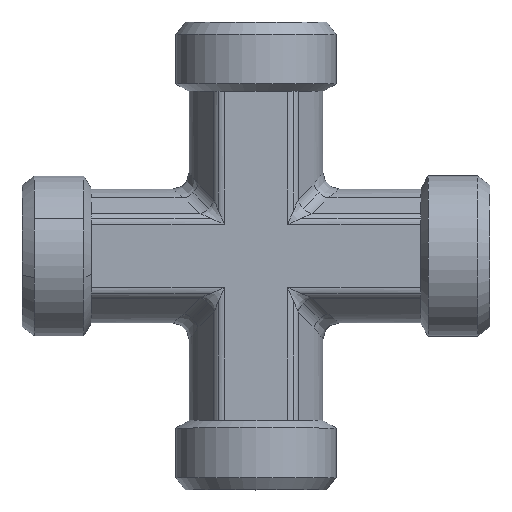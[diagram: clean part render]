
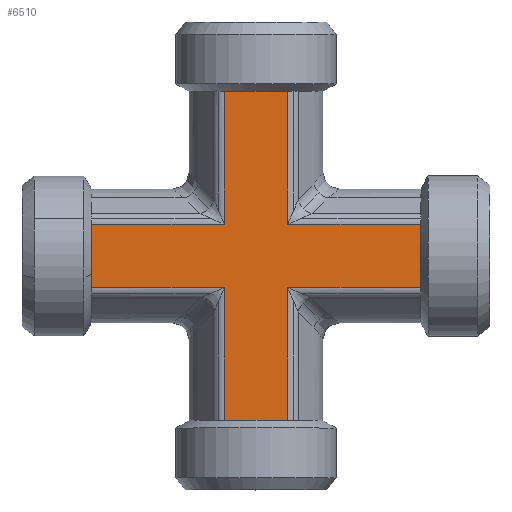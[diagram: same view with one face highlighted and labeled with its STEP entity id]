
A CAD part, top view. The second image highlights one B-rep face of the part: STEP entity #6510.
In plain terms, the highlighted planar face has unit normal (0, 0, 1) as drawn and (0, -1, 0) by its records, which use the part's own axes.
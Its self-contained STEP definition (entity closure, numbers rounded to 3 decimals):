
#361=CARTESIAN_POINT('',(-0.574,-8.3,3.926));
#362=VERTEX_POINT('',#361);
#370=CARTESIAN_POINT('',(15.9,-8.3,3.926));
#371=VERTEX_POINT('',#370);
#372=CARTESIAN_POINT('',(-0.574,-8.3,3.926));
#373=DIRECTION('',(1.0,0.0,0.0));
#374=VECTOR('',#373,16.474);
#375=LINE('',#372,#374);
#376=EDGE_CURVE('',#362,#371,#375,.T.);
#445=CARTESIAN_POINT('',(-0.574,-8.3,-3.926));
#446=VERTEX_POINT('',#445);
#454=CARTESIAN_POINT('',(-0.574,-8.3,-20.4));
#455=VERTEX_POINT('',#454);
#456=CARTESIAN_POINT('',(-0.574,-8.3,-3.926));
#457=DIRECTION('',(0.0,0.0,-1.0));
#458=VECTOR('',#457,16.474);
#459=LINE('',#456,#458);
#460=EDGE_CURVE('',#446,#455,#459,.T.);
#487=CARTESIAN_POINT('',(-8.426,-8.3,3.926));
#488=VERTEX_POINT('',#487);
#496=CARTESIAN_POINT('',(-8.426,-8.3,20.4));
#497=VERTEX_POINT('',#496);
#498=CARTESIAN_POINT('',(-8.426,-8.3,3.926));
#499=DIRECTION('',(0.0,0.0,1.0));
#500=VECTOR('',#499,16.474);
#501=LINE('',#498,#500);
#502=EDGE_CURVE('',#488,#497,#501,.T.);
#529=CARTESIAN_POINT('',(-24.9,-8.3,3.926));
#530=VERTEX_POINT('',#529);
#538=CARTESIAN_POINT('',(-24.9,-8.3,3.926));
#539=DIRECTION('',(1.0,0.0,0.0));
#540=VECTOR('',#539,16.474);
#541=LINE('',#538,#540);
#542=EDGE_CURVE('',#530,#488,#541,.T.);
#611=CARTESIAN_POINT('',(-8.426,-8.3,-3.926));
#612=VERTEX_POINT('',#611);
#620=CARTESIAN_POINT('',(-24.9,-8.3,-3.926));
#621=VERTEX_POINT('',#620);
#622=CARTESIAN_POINT('',(-8.426,-8.3,-3.926));
#623=DIRECTION('',(-1.0,0.0,0.0));
#624=VECTOR('',#623,16.474);
#625=LINE('',#622,#624);
#626=EDGE_CURVE('',#612,#621,#625,.T.);
#1520=CARTESIAN_POINT('',(-24.9,-8.3,0.));
#1521=VERTEX_POINT('',#1520);
#1821=CARTESIAN_POINT('',(-4.5,-8.3,20.4));
#1822=VERTEX_POINT('',#1821);
#2173=CARTESIAN_POINT('',(15.9,-8.3,0.));
#2174=VERTEX_POINT('',#2173);
#3138=CARTESIAN_POINT('',(-4.5,-8.3,-20.4));
#3139=VERTEX_POINT('',#3138);
#3262=CARTESIAN_POINT('',(-4.5,-8.3,-20.4));
#3263=DIRECTION('',(1.0,0.0,0.0));
#3264=VECTOR('',#3263,3.926);
#3265=LINE('',#3262,#3264);
#3266=EDGE_CURVE('',#3139,#455,#3265,.T.);
#3277=CARTESIAN_POINT('',(-8.426,-8.3,-20.4));
#3278=VERTEX_POINT('',#3277);
#3279=CARTESIAN_POINT('',(-8.426,-8.3,-20.4));
#3280=DIRECTION('',(1.0,0.0,0.0));
#3281=VECTOR('',#3280,3.926);
#3282=LINE('',#3279,#3281);
#3283=EDGE_CURVE('',#3278,#3139,#3282,.T.);
#3568=CARTESIAN_POINT('',(15.9,-8.3,-3.926));
#3569=VERTEX_POINT('',#3568);
#3570=CARTESIAN_POINT('',(15.9,-8.3,-3.926));
#3571=DIRECTION('',(0.0,0.0,1.0));
#3572=VECTOR('',#3571,3.926);
#3573=LINE('',#3570,#3572);
#3574=EDGE_CURVE('',#3569,#2174,#3573,.T.);
#3615=CARTESIAN_POINT('',(15.9,-8.3,0.));
#3616=DIRECTION('',(0.0,0.0,1.0));
#3617=VECTOR('',#3616,3.926);
#3618=LINE('',#3615,#3617);
#3619=EDGE_CURVE('',#2174,#371,#3618,.T.);
#3932=CARTESIAN_POINT('',(-0.574,-8.3,20.4));
#3933=VERTEX_POINT('',#3932);
#3934=CARTESIAN_POINT('',(-0.574,-8.3,20.4));
#3935=DIRECTION('',(-1.0,0.0,0.0));
#3936=VECTOR('',#3935,3.926);
#3937=LINE('',#3934,#3936);
#3938=EDGE_CURVE('',#3933,#1822,#3937,.T.);
#3979=CARTESIAN_POINT('',(-4.5,-8.3,20.4));
#3980=DIRECTION('',(-1.0,0.0,0.0));
#3981=VECTOR('',#3980,3.926);
#3982=LINE('',#3979,#3981);
#3983=EDGE_CURVE('',#1822,#497,#3982,.T.);
#4277=CARTESIAN_POINT('',(-24.9,-8.3,3.926));
#4278=DIRECTION('',(0.0,0.0,-1.0));
#4279=VECTOR('',#4278,3.926);
#4280=LINE('',#4277,#4279);
#4281=EDGE_CURVE('',#530,#1521,#4280,.T.);
#4324=CARTESIAN_POINT('',(-24.9,-8.3,0.));
#4325=DIRECTION('',(0.0,0.0,-1.0));
#4326=VECTOR('',#4325,3.926);
#4327=LINE('',#4324,#4326);
#4328=EDGE_CURVE('',#1521,#621,#4327,.T.);
#6472=CARTESIAN_POINT('',(-4.5,-8.3,-4.792));
#6473=DIRECTION('',(0.0,-1.0,0.0));
#6474=DIRECTION('',(0.0,0.0,-1.0));
#6475=AXIS2_PLACEMENT_3D('',#6472,#6473,#6474);
#6476=PLANE('',#6475);
#6477=ORIENTED_EDGE('',*,*,#626,.F.);
#6478=CARTESIAN_POINT('',(-8.426,-8.3,-3.926));
#6479=DIRECTION('',(0.0,0.0,-1.0));
#6480=VECTOR('',#6479,16.474);
#6481=LINE('',#6478,#6480);
#6482=EDGE_CURVE('',#612,#3278,#6481,.T.);
#6483=ORIENTED_EDGE('',*,*,#6482,.T.);
#6484=ORIENTED_EDGE('',*,*,#3283,.T.);
#6485=ORIENTED_EDGE('',*,*,#3266,.T.);
#6486=ORIENTED_EDGE('',*,*,#460,.F.);
#6487=CARTESIAN_POINT('',(-0.574,-8.3,-3.926));
#6488=DIRECTION('',(1.0,0.0,0.0));
#6489=VECTOR('',#6488,16.474);
#6490=LINE('',#6487,#6489);
#6491=EDGE_CURVE('',#446,#3569,#6490,.T.);
#6492=ORIENTED_EDGE('',*,*,#6491,.T.);
#6493=ORIENTED_EDGE('',*,*,#3574,.T.);
#6494=ORIENTED_EDGE('',*,*,#3619,.T.);
#6495=ORIENTED_EDGE('',*,*,#376,.F.);
#6496=CARTESIAN_POINT('',(-0.574,-8.3,3.926));
#6497=DIRECTION('',(0.0,0.0,1.0));
#6498=VECTOR('',#6497,16.474);
#6499=LINE('',#6496,#6498);
#6500=EDGE_CURVE('',#362,#3933,#6499,.T.);
#6501=ORIENTED_EDGE('',*,*,#6500,.T.);
#6502=ORIENTED_EDGE('',*,*,#3938,.T.);
#6503=ORIENTED_EDGE('',*,*,#3983,.T.);
#6504=ORIENTED_EDGE('',*,*,#502,.F.);
#6505=ORIENTED_EDGE('',*,*,#542,.F.);
#6506=ORIENTED_EDGE('',*,*,#4281,.T.);
#6507=ORIENTED_EDGE('',*,*,#4328,.T.);
#6508=EDGE_LOOP('',(#6477,#6483,#6484,#6485,#6486,#6492,#6493,#6494,#6495,#6501,#6502,#6503,#6504,#6505,#6506,#6507));
#6509=FACE_OUTER_BOUND('',#6508,.T.);
#6510=ADVANCED_FACE('',(#6509),#6476,.T.);
